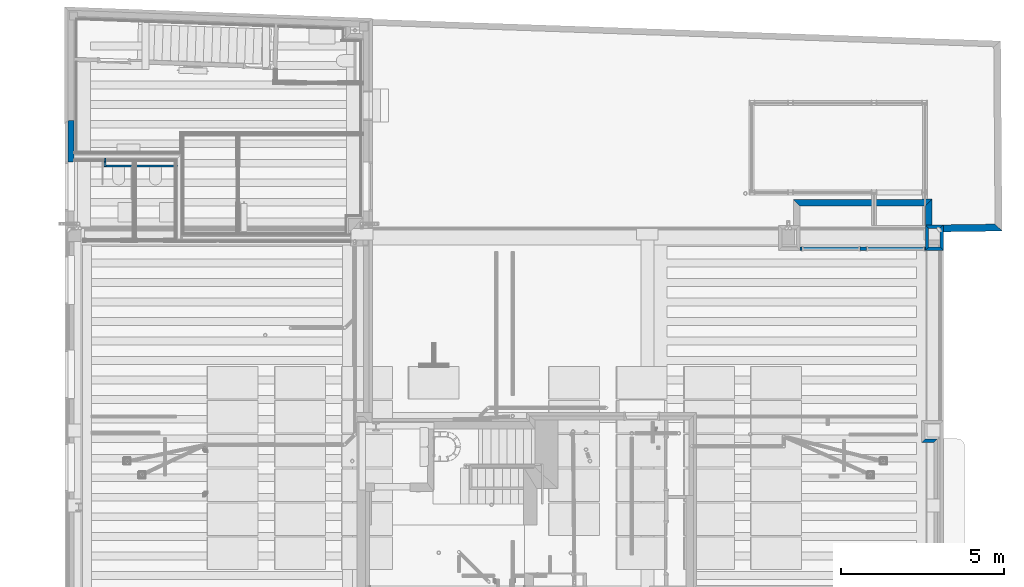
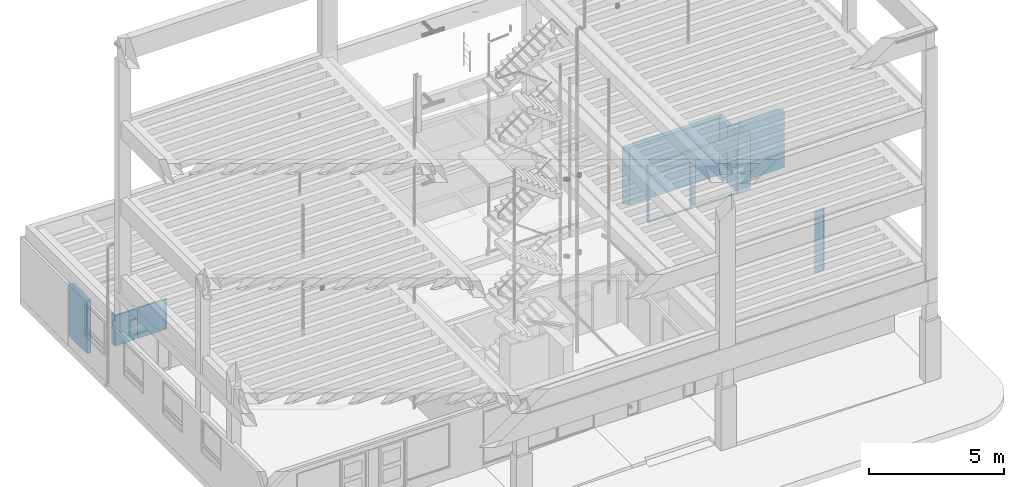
# One storey, part 8 of 108: 13 walls, 3 openings.
"""IFC2X3 building model written with IfcOpenShell, lengths in metres."""

import ifcopenshell
import ifcopenshell.guid

model = None  # the IFC model being written
_history = None  # IfcOwnerHistory: only IFC2X3 demands one
_inside = {}  # id of a spatial element -> (the spatial element, [elements in it])
_under = {}  # id of a project, library or spatial element -> (it, [spatial elements below it])
_declared = {}  # id of a project -> (the project, [libraries it declares])
_typed = {}  # id of a type object -> (the type object, [elements of that type])
_made_of = {}  # id of a material, layer set ... -> (it, [elements and type objects made of it])


def new_model(schema):
    """Start an empty IFC model of exactly this schema.

    Asked for "IFC4X3", IfcOpenShell would pick the latest addendum, in which some entities
    have other attributes; the version numbers below select the first issue.
    IFC2X3 requires an IfcOwnerHistory on every rooted entity: one is made here for all.
    """
    global model, _history
    if schema == "IFC4X3":
        model = ifcopenshell.file(schema_version=(4, 3, 0, 0))
    else:
        model = ifcopenshell.file(schema=schema)
    _inside.clear()
    _under.clear()
    _declared.clear()
    _typed.clear()
    _made_of.clear()
    _history = None
    if model.schema == "IFC2X3":
        org = make("IfcOrganization", Name="unknown")
        user = make(
            "IfcPersonAndOrganization",
            ThePerson=make("IfcPerson", FamilyName="unknown"),
            TheOrganization=org,
        )
        app = make(
            "IfcApplication",
            ApplicationDeveloper=org,
            Version="unknown",
            ApplicationFullName="unknown",
            ApplicationIdentifier="unknown",
        )
        _history = make(
            "IfcOwnerHistory",
            OwningUser=user,
            OwningApplication=app,
            ChangeAction="ADDED",
            CreationDate=0,
        )
    return model


def make(cls, **values):
    """One entity of the class cls with the attributes given. An attribute that is None is left unset."""
    return model.create_entity(
        cls, **{name: value for name, value in values.items() if value is not None}
    )


def entity(cls, *values):
    """Any entity or typed value of the class cls, its attributes in the order of the schema. None: left unset."""
    e = model.create_entity(cls)
    for i, value in enumerate(values):
        if value is not None:
            e[i] = value
    return e


def rooted(cls, **values):
    """An entity with a GlobalId (a new one), such as an element, a storey or a relation."""
    return make(cls, GlobalId=ifcopenshell.guid.new(), OwnerHistory=_history, **values)


def si_unit(unit_type, name, prefix=None):
    """IfcSIUnit, for example si_unit("LENGTHUNIT", "METRE", prefix="MILLI")."""
    return make("IfcSIUnit", UnitType=unit_type, Prefix=prefix, Name=name)


def converted_unit(unit_type, name, factor, base, dimensions=None, offset=None):
    """IfcConversionBasedUnit, such as the inch: factor (a typed value) times the base unit."""
    return make(
        "IfcConversionBasedUnit"
        if offset is None
        else "IfcConversionBasedUnitWithOffset",
        ConversionOffset=offset,
        Dimensions=None
        if dimensions is None
        else entity("IfcDimensionalExponents", *dimensions),
        UnitType=unit_type,
        Name=name,
        ConversionFactor=make(
            "IfcMeasureWithUnit", ValueComponent=factor, UnitComponent=base
        ),
    )


def derived_unit(unit_type, elements):
    """IfcDerivedUnit: a product of units, each with its exponent."""
    return make(
        "IfcDerivedUnit",
        Elements=[
            make("IfcDerivedUnitElement", Unit=unit, Exponent=power)
            for unit, power in elements
        ],
        UnitType=unit_type,
    )


def money_unit(currency):
    """IfcMonetaryUnit."""
    return make("IfcMonetaryUnit", Currency=currency)


def assignment(units):
    """IfcUnitAssignment: the units of a project."""
    return None if units is None else make("IfcUnitAssignment", Units=units)


def point(xyz):
    """IfcCartesianPoint."""
    return None if xyz is None else make("IfcCartesianPoint", Coordinates=xyz)


def direction(xyz):
    """IfcDirection."""
    return None if xyz is None else make("IfcDirection", DirectionRatios=xyz)


def frame(location, z_axis=None, x_axis=None):
    """IfcAxis2Placement3D, a coordinate frame: its origin and axes. An axis left out is left unset."""
    return make(
        "IfcAxis2Placement3D",
        Location=point(location),
        Axis=direction(z_axis),
        RefDirection=direction(x_axis),
    )


def frame_2d(location, x_axis=None):
    """IfcAxis2Placement2D, a coordinate frame in the plane: its origin and x axis."""
    return make(
        "IfcAxis2Placement2D", Location=point(location), RefDirection=direction(x_axis)
    )


def origin_with_axes():
    """The frame at (0, 0, 0) with the z axis (0, 0, 1) and the x axis (1, 0, 0) written out."""
    return frame((0.0, 0.0, 0.0), z_axis=(0.0, 0.0, 1.0), x_axis=(1.0, 0.0, 0.0))


def place(relative_to, where):
    """IfcLocalPlacement: puts the frame where relative to a parent placement (None: the world)."""
    return make(
        "IfcLocalPlacement", PlacementRelTo=relative_to, RelativePlacement=where
    )


def context(
    kind, dimensions, precision=None, world=None, true_north=None, identifier=None
):
    """IfcGeometricRepresentationContext, for example the 3D "Model" context."""
    return make(
        "IfcGeometricRepresentationContext",
        ContextIdentifier=identifier,
        ContextType=kind,
        CoordinateSpaceDimension=dimensions,
        Precision=precision,
        WorldCoordinateSystem=world,
        TrueNorth=true_north,
    )


def subcontext(parent, identifier, kind, view, scale=None):
    """IfcGeometricRepresentationSubContext, for example "Body" below "Model"."""
    return make(
        "IfcGeometricRepresentationSubContext",
        ContextIdentifier=identifier,
        ContextType=kind,
        ParentContext=parent,
        TargetScale=scale,
        TargetView=view,
    )


def project(units=None, contexts=None):
    """IfcProject with its units and contexts."""
    return rooted(
        "IfcProject",
        Name="project",
        RepresentationContexts=contexts,
        UnitsInContext=assignment(units),
    )


def spatial(cls, under=None, at=None, **own):
    """A site, building, storey or space (cls), placed at a placement, below another one or the project."""
    s = rooted(cls, ObjectPlacement=at, **own)
    if under is not None:
        _under.setdefault(under.id(), (under, []))[1].append(s)
    return s


def polyline(points):
    """IfcPolyline through the points."""
    return make("IfcPolyline", Points=[point(p) for p in points])


def profile(cls, at=None, kind="AREA", **sizes):
    """A parametric profile (cls). Its sizes go by their IFC names, for example OverallWidth=200.0."""
    return make(cls, ProfileType=kind, Position=at, **sizes)


def rectangle(**sizes):
    """IfcRectangleProfileDef."""
    return profile("IfcRectangleProfileDef", **sizes)


def outline(outer, holes=None, kind="AREA"):
    """IfcArbitraryClosedProfileDef: a profile drawn as a closed curve; with holes, ...WithVoids."""
    if holes is None:
        return make("IfcArbitraryClosedProfileDef", ProfileType=kind, OuterCurve=outer)
    return make(
        "IfcArbitraryProfileDefWithVoids",
        ProfileType=kind,
        OuterCurve=outer,
        InnerCurves=holes,
    )


def extrude(swept, where, along, depth):
    """IfcExtrudedAreaSolid: the profile swept, set in the frame where, extruded along a direction by depth."""
    return make(
        "IfcExtrudedAreaSolid",
        SweptArea=swept,
        Position=where,
        ExtrudedDirection=direction(along),
        Depth=depth,
    )


def shape(context_of_items, identifier, shape_type, items):
    """IfcShapeRepresentation: the items that make up one representation, for example the "Body"."""
    return make(
        "IfcShapeRepresentation",
        ContextOfItems=context_of_items,
        RepresentationIdentifier=identifier,
        RepresentationType=shape_type,
        Items=items,
    )


def material(Name=None, Category=None):
    """IfcMaterial."""
    return make("IfcMaterial", Name=Name, Category=Category)


def layer(
    of_material, thickness, ventilated=None, Name=None, Category=None, Priority=None
):
    """IfcMaterialLayer: one layer of a wall or slab, of a material (None: an air gap)."""
    return make(
        "IfcMaterialLayer",
        Material=of_material,
        LayerThickness=thickness,
        IsVentilated=ventilated,
        Name=Name,
        Category=Category,
        Priority=Priority,
    )


def layer_set(layers, Name=None):
    """IfcMaterialLayerSet."""
    return make("IfcMaterialLayerSet", MaterialLayers=layers, LayerSetName=Name)


def layer_usage(for_layer_set, set_direction, sense, offset, extent=None):
    """IfcMaterialLayerSetUsage: how a layer set lies in its element."""
    return make(
        "IfcMaterialLayerSetUsage",
        ForLayerSet=for_layer_set,
        LayerSetDirection=set_direction,
        DirectionSense=sense,
        OffsetFromReferenceLine=offset,
        ReferenceExtent=extent,
    )


def made_of(thing, what):
    """Note that an element or type object is made of a material, layer set ...; save() writes the relation."""
    if what is not None:
        _made_of.setdefault(what.id(), (what, []))[1].append(thing)
    return thing


def type_object(cls, material=None, **own):
    """A type object (cls), such as IfcWallType, which elements share."""
    return made_of(rooted(cls, **own), material)


def element(
    cls,
    number,
    at=None,
    inside=None,
    cuts=None,
    type_object=None,
    material=None,
    context=None,
    identifier="Body",
    shape_type=None,
    held_by="IfcProductDefinitionShape",
    body=None,
    shapes=None,
    **own,
):
    """One element of the class cls, such as IfcWall. Its Tag is "e" and its number.

    at: its placement. inside: the storey or other place that contains it. cuts: it is an
    opening in that element (IfcRelVoidsElement). A single representation is given by context,
    identifier, shape_type and body (its items); several are given by shapes. held_by: the class
    of the entity that holds the representations. save() writes the other relations.
    """
    e = rooted(cls, Tag="e%d" % number, ObjectPlacement=at, **own)
    if body is not None:
        shapes = [shape(context, identifier, shape_type, body)]
    if shapes is not None:
        e.Representation = make(held_by, Representations=shapes)
    if inside is not None:
        _inside.setdefault(inside.id(), (inside, []))[1].append(e)
    if cuts is not None:
        rooted(
            "IfcRelVoidsElement", RelatingBuildingElement=cuts, RelatedOpeningElement=e
        )
    if type_object is not None:
        _typed.setdefault(type_object.id(), (type_object, []))[1].append(e)
    return made_of(e, material)


def aggregate(whole, parts):
    """IfcRelAggregates: a whole, such as a stair, and the parts it consists of."""
    return rooted("IfcRelAggregates", RelatingObject=whole, RelatedObjects=parts)


def save(model, path):
    """Write the relations noted so far, then the file.

    IfcRelAggregates (storeys below a building ...), IfcRelContainedInSpatialStructure (elements
    in a storey), IfcRelDefinesByType, IfcRelAssociatesMaterial and IfcRelDeclares: one each for
    every whole, place, type object, material and project.
    """
    for whole, parts in _under.values():
        aggregate(whole, parts)
    for where, things in _inside.values():
        rooted(
            "IfcRelContainedInSpatialStructure",
            RelatedElements=things,
            RelatingStructure=where,
        )
    for kind, things in _typed.values():
        rooted("IfcRelDefinesByType", RelatedObjects=things, RelatingType=kind)
    for what, things in _made_of.values():
        rooted("IfcRelAssociatesMaterial", RelatedObjects=things, RelatingMaterial=what)
    for by, libraries in _declared.values():
        rooted("IfcRelDeclares", RelatingContext=by, RelatedDefinitions=libraries)
    model.write(path)


model = new_model("IFC2X3")

# Units and contexts
model_context = context("Model", 3, precision=1e-05, world=origin_with_axes(), true_north=direction((0.0, 1.0)))
body_context = subcontext(model_context, "Body", "Model", "MODEL_VIEW", scale=1.0)
ifc_project = project(units=[si_unit("LENGTHUNIT", "METRE"), si_unit("AREAUNIT", "SQUARE_METRE"), si_unit("VOLUMEUNIT", "CUBIC_METRE"), si_unit("ABSORBEDDOSEUNIT", "GRAY"), si_unit("AMOUNTOFSUBSTANCEUNIT", "MOLE"), si_unit("DOSEEQUIVALENTUNIT", "SIEVERT"), si_unit("ELECTRICCAPACITANCEUNIT", "FARAD"), si_unit("ELECTRICCHARGEUNIT", "COULOMB"), si_unit("ELECTRICCONDUCTANCEUNIT", "SIEMENS"), si_unit("ELECTRICCURRENTUNIT", "AMPERE"), si_unit("ELECTRICRESISTANCEUNIT", "OHM"), si_unit("ELECTRICVOLTAGEUNIT", "VOLT"), si_unit("ENERGYUNIT", "JOULE"), si_unit("FORCEUNIT", "NEWTON"), si_unit("FREQUENCYUNIT", "HERTZ"), si_unit("ILLUMINANCEUNIT", "LUX"), si_unit("INDUCTANCEUNIT", "HENRY"), si_unit("LUMINOUSFLUXUNIT", "LUMEN"), si_unit("LUMINOUSINTENSITYUNIT", "CANDELA"), si_unit("MAGNETICFLUXDENSITYUNIT", "TESLA"), si_unit("MAGNETICFLUXUNIT", "WEBER"), si_unit("MASSUNIT", "GRAM"), converted_unit("PLANEANGLEUNIT", "degree", entity("IfcReal", 0.0174532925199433), si_unit("PLANEANGLEUNIT", "RADIAN"), dimensions=[0, 0, 0, 0, 0, 0, 0]), si_unit("POWERUNIT", "WATT"), si_unit("PRESSUREUNIT", "PASCAL"), si_unit("RADIOACTIVITYUNIT", "BECQUEREL"), si_unit("SOLIDANGLEUNIT", "STERADIAN"), si_unit("THERMODYNAMICTEMPERATUREUNIT", "KELVIN"), si_unit("TIMEUNIT", "SECOND"), derived_unit("ACCELERATIONUNIT", [(si_unit("LENGTHUNIT", "METRE"), 1), (si_unit("TIMEUNIT", "SECOND"), -2)]), derived_unit("ANGULARVELOCITYUNIT", [(converted_unit("PLANEANGLEUNIT", "degree", entity("IfcReal", 0.0174532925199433), si_unit("PLANEANGLEUNIT", "RADIAN"), dimensions=[0, 0, 0, 0, 0, 0, 0]), 1), (si_unit("TIMEUNIT", "SECOND"), -1)]), derived_unit("CURVATUREUNIT", [(converted_unit("PLANEANGLEUNIT", "degree", entity("IfcReal", 0.0174532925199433), si_unit("PLANEANGLEUNIT", "RADIAN"), dimensions=[0, 0, 0, 0, 0, 0, 0]), 1), (si_unit("LENGTHUNIT", "METRE"), -1)]), derived_unit("DYNAMICVISCOSITYUNIT", [(si_unit("PRESSUREUNIT", "PASCAL"), 1), (si_unit("TIMEUNIT", "SECOND"), 1)]), derived_unit("HEATFLUXDENSITYUNIT", [(si_unit("POWERUNIT", "WATT"), 1), (si_unit("LENGTHUNIT", "METRE"), -2)]), derived_unit("HEATINGVALUEUNIT", [(si_unit("ENERGYUNIT", "JOULE"), 1), (si_unit("MASSUNIT", "GRAM"), -1)]), derived_unit("INTEGERCOUNTRATEUNIT", [(si_unit("TIMEUNIT", "SECOND"), -1)]), derived_unit("IONCONCENTRATIONUNIT", [(si_unit("MASSUNIT", "GRAM"), 1), (si_unit("VOLUMEUNIT", "CUBIC_METRE"), -1)]), derived_unit("ISOTHERMALMOISTURECAPACITYUNIT", [(si_unit("VOLUMEUNIT", "CUBIC_METRE"), 1), (si_unit("MASSUNIT", "GRAM"), -1)]), derived_unit("KINEMATICVISCOSITYUNIT", [(si_unit("AREAUNIT", "SQUARE_METRE"), 1), (si_unit("TIMEUNIT", "SECOND"), -1)]), derived_unit("LINEARFORCEUNIT", [(si_unit("FORCEUNIT", "NEWTON"), 1), (si_unit("LENGTHUNIT", "METRE"), -1)]), derived_unit("LINEARMOMENTUNIT", [(si_unit("FORCEUNIT", "NEWTON"), 1), (si_unit("LENGTHUNIT", "METRE"), -1)]), derived_unit("LINEARSTIFFNESSUNIT", [(si_unit("FORCEUNIT", "NEWTON"), 1), (si_unit("LENGTHUNIT", "METRE"), -1)]), derived_unit("LINEARVELOCITYUNIT", [(si_unit("LENGTHUNIT", "METRE"), 1), (si_unit("TIMEUNIT", "SECOND"), -1)]), derived_unit("LUMINOUSINTENSITYDISTRIBUTIONUNIT", [(si_unit("LUMINOUSINTENSITYUNIT", "CANDELA"), 1), (si_unit("LUMINOUSFLUXUNIT", "LUMEN"), -1)]), derived_unit("MASSDENSITYUNIT", [(si_unit("MASSUNIT", "GRAM"), 1), (si_unit("VOLUMEUNIT", "CUBIC_METRE"), -1)]), derived_unit("MASSFLOWRATEUNIT", [(si_unit("MASSUNIT", "GRAM"), 1), (si_unit("TIMEUNIT", "SECOND"), -1)]), derived_unit("MASSPERLENGTHUNIT", [(si_unit("MASSUNIT", "GRAM"), 1), (si_unit("LENGTHUNIT", "METRE"), -1)]), derived_unit("MODULUSOFELASTICITYUNIT", [(si_unit("FORCEUNIT", "NEWTON"), 1), (si_unit("AREAUNIT", "SQUARE_METRE"), -1)]), derived_unit("MODULUSOFLINEARSUBGRADEREACTIONUNIT", [(si_unit("FORCEUNIT", "NEWTON"), 1), (si_unit("LENGTHUNIT", "METRE"), -2)]), derived_unit("MODULUSOFROTATIONALSUBGRADEREACTIONUNIT", [(si_unit("FORCEUNIT", "NEWTON"), 1), (si_unit("LENGTHUNIT", "METRE"), 1)]), derived_unit("MODULUSOFSUBGRADEREACTIONUNIT", [(si_unit("FORCEUNIT", "NEWTON"), 1), (si_unit("VOLUMEUNIT", "CUBIC_METRE"), -1)]), derived_unit("MOISTUREDIFFUSIVITYUNIT", [(si_unit("VOLUMEUNIT", "CUBIC_METRE"), 1), (si_unit("TIMEUNIT", "SECOND"), -1)]), derived_unit("MOLECULARWEIGHTUNIT", [(si_unit("MASSUNIT", "GRAM"), 1), (si_unit("AMOUNTOFSUBSTANCEUNIT", "MOLE"), -1)]), derived_unit("PLANARFORCEUNIT", [(si_unit("FORCEUNIT", "NEWTON"), 1), (si_unit("LENGTHUNIT", "METRE"), -2)]), derived_unit("ROTATIONALFREQUENCYUNIT", [(si_unit("TIMEUNIT", "SECOND"), -1)]), derived_unit("ROTATIONALMASSUNIT", [(si_unit("MASSUNIT", "GRAM"), 1), (si_unit("LENGTHUNIT", "METRE"), 2)]), derived_unit("ROTATIONALSTIFFNESSUNIT", [(si_unit("FORCEUNIT", "NEWTON"), 1), (si_unit("LENGTHUNIT", "METRE"), 1), (converted_unit("PLANEANGLEUNIT", "degree", entity("IfcReal", 0.0174532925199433), si_unit("PLANEANGLEUNIT", "RADIAN"), dimensions=[0, 0, 0, 0, 0, 0, 0]), -1)]), derived_unit("SECTIONAREAINTEGRALUNIT", [(si_unit("LENGTHUNIT", "METRE"), 5)]), derived_unit("SECTIONMODULUSUNIT", [(si_unit("LENGTHUNIT", "METRE"), 3)]), derived_unit("SHEARMODULUSUNIT", [(si_unit("FORCEUNIT", "NEWTON"), 1), (si_unit("AREAUNIT", "SQUARE_METRE"), -1)]), derived_unit("SOUNDPOWERUNIT", [(si_unit("ENERGYUNIT", "JOULE"), 1), (si_unit("TIMEUNIT", "SECOND"), -1)]), derived_unit("SPECIFICHEATCAPACITYUNIT", [(si_unit("FORCEUNIT", "NEWTON"), 1), (si_unit("MASSUNIT", "GRAM"), -1), (si_unit("THERMODYNAMICTEMPERATUREUNIT", "KELVIN"), -1)]), derived_unit("TEMPERATUREGRADIENTUNIT", [(si_unit("THERMODYNAMICTEMPERATUREUNIT", "KELVIN"), 1), (si_unit("LENGTHUNIT", "METRE"), -1)]), derived_unit("THERMALADMITTANCEUNIT", [(si_unit("POWERUNIT", "WATT"), 1), (si_unit("AREAUNIT", "SQUARE_METRE"), -1), (si_unit("THERMODYNAMICTEMPERATUREUNIT", "KELVIN"), -1)]), derived_unit("THERMALCONDUCTANCEUNIT", [(si_unit("POWERUNIT", "WATT"), 1), (si_unit("LENGTHUNIT", "METRE"), -1), (si_unit("THERMODYNAMICTEMPERATUREUNIT", "KELVIN"), -1)]), derived_unit("THERMALEXPANSIONCOEFFICIENTUNIT", [(si_unit("THERMODYNAMICTEMPERATUREUNIT", "KELVIN"), -1)]), derived_unit("THERMALRESISTANCEUNIT", [(si_unit("AREAUNIT", "SQUARE_METRE"), 1), (si_unit("POWERUNIT", "WATT"), -1)]), derived_unit("THERMALTRANSMITTANCEUNIT", [(si_unit("POWERUNIT", "WATT"), 1), (si_unit("AREAUNIT", "SQUARE_METRE"), -1), (si_unit("THERMODYNAMICTEMPERATUREUNIT", "KELVIN"), -1)]), derived_unit("TORQUEUNIT", [(si_unit("FORCEUNIT", "NEWTON"), 1), (si_unit("LENGTHUNIT", "METRE"), 1)]), derived_unit("VAPORPERMEABILITYUNIT", [(si_unit("MASSUNIT", "GRAM"), 1), (si_unit("TIMEUNIT", "SECOND"), -1)]), derived_unit("VOLUMETRICFLOWRATEUNIT", [(si_unit("VOLUMEUNIT", "CUBIC_METRE"), 1), (si_unit("TIMEUNIT", "SECOND"), -1)]), derived_unit("WARPINGCONSTANTUNIT", [(si_unit("LENGTHUNIT", "METRE"), 6)]), derived_unit("WARPINGMOMENTUNIT", [(si_unit("FORCEUNIT", "NEWTON"), 1), (si_unit("LENGTHUNIT", "METRE"), 2)]), money_unit("GBP")], contexts=[model_context])

# Site, building, storey
site_placement = place(None, origin_with_axes())
site = spatial("IfcSite", under=ifc_project, at=site_placement, Name="Site", CompositionType="ELEMENT")
building_placement = place(site_placement, origin_with_axes())
building = spatial("IfcBuilding", under=site, at=building_placement, Name="Building01", CompositionType="ELEMENT")
storey_placement = place(building_placement, origin_with_axes())
storey = spatial("IfcBuildingStorey", under=building, at=storey_placement, Name="GF", CompositionType="ELEMENT", Elevation=0.0)

# Walls
ifc_material_1 = material(Name="A_BSUK_WallsExternal_Brick")
ifc_layer_1 = layer(ifc_material_1, 0.1, ventilated=False)
ifc_layer_set_1 = layer_set([ifc_layer_1])
ifc_layer_usage_1 = layer_usage(ifc_layer_set_1, "AXIS2", "POSITIVE", 0.0)
wall_type_1 = type_object("IfcWallType", Name="A-Walls-ExternalBrick", PredefinedType="NOTDEFINED")
wall_1_placement = place(storey_placement, frame((26.314179, 8.237758, -0.16), z_axis=(0.0, 0.0, 1.0), x_axis=(1.0, 0.0, 0.0)))
element("IfcWallStandardCase", 1, at=wall_1_placement, inside=storey, type_object=wall_type_1, material=ifc_layer_usage_1, Name="A-Walls-ExternalBrick", ObjectType="A-Walls-ExternalBrick", context=body_context, shape_type="SweptSolid", body=[
    extrude(outline(polyline([(0.481054, 0.1), (0.1, 0.1), (0.0, 0.0), (0.38105, 0.0), (0.481054, 0.1)])), origin_with_axes(), (0.0, 0.0, 1.0), 2.76),
])
wall_2_placement = place(storey_placement, frame((26.981733, 14.914749, -0.16), z_axis=(0.0, 0.0, 1.0), x_axis=(-0.99988976, -0.0148485, 0.0)))
element("IfcWallStandardCase", 2, at=wall_2_placement, inside=storey, type_object=wall_type_1, material=ifc_layer_usage_1, Name="A-Walls-ExternalBrick", ObjectType="A-Walls-ExternalBrick", context=body_context, shape_type="SweptSolid", body=[
    extrude(outline(polyline([(0.453506, 0.1), (0.101508, 0.1), (0.0, 0.0), (0.552027, 0.0), (0.453506, 0.1)])), origin_with_axes(), (0.0, 0.0, 1.0), 2.6),
])
wall_3_placement = place(storey_placement, frame((26.429767, 14.906552, -0.16), z_axis=(0.0, 0.0, 1.0), x_axis=(-5.782e-05, -1.0, 0.0)))
element("IfcWallStandardCase", 3, at=wall_3_placement, inside=storey, type_object=wall_type_1, material=ifc_layer_usage_1, Name="A-Walls-ExternalBrick", ObjectType="A-Walls-ExternalBrick", context=body_context, shape_type="SweptSolid", body=[
    extrude(outline(polyline([(0.672426, 0.1), (0.09852, 0.1), (0.0, 0.0), (0.772426, 0.0), (0.672426, 0.1)])), origin_with_axes(), (0.0, 0.0, 1.0), 2.6),
])
wall_4_placement = place(storey_placement, frame((26.429722, 14.134126, -0.16), z_axis=(0.0, 0.0, 1.0), x_axis=(1.0, -5.782e-05, 0.0)))
element("IfcWallStandardCase", 4, at=wall_4_placement, inside=storey, type_object=wall_type_1, material=ifc_layer_usage_1, Name="A-Walls-ExternalBrick", ObjectType="A-Walls-ExternalBrick", context=body_context, shape_type="SweptSolid", body=[
    extrude(outline(polyline([(0.451923, 0.1), (0.1, 0.1), (0.0, 0.0), (0.551917, 0.0), (0.451923, 0.1)])), origin_with_axes(), (0.0, 0.0, 1.0), 2.6),
])
wall_5_placement = place(storey_placement, frame((26.981639, 14.134094, -0.16), z_axis=(0.0, 0.0, 1.0), x_axis=(0.00011969, 0.99999999, 0.0)))
element("IfcWallStandardCase", 5, at=wall_5_placement, inside=storey, type_object=wall_type_1, material=ifc_layer_usage_1, Name="A-Walls-ExternalBrick", ObjectType="A-Walls-ExternalBrick", context=body_context, shape_type="SweptSolid", body=[
    extrude(outline(polyline([(0.679146, 0.1), (0.099994, 0.1), (0.0, 0.0), (0.780654, 0.0), (0.679146, 0.1)])), origin_with_axes(), (0.0, 0.0, 1.0), 2.6),
])

# Wall, openings
wall_6_placement = place(storey_placement, frame((22.577154, 14.134271, -0.16), z_axis=(0.0, 0.0, 1.0), x_axis=(1.0, -3.756e-05, 0.0)))
wall_6 = element("IfcWallStandardCase", 6, at=wall_6_placement, inside=storey, type_object=wall_type_1, material=ifc_layer_usage_1, Name="A-Walls-ExternalBrick", ObjectType="A-Walls-ExternalBrick", context=body_context, shape_type="SweptSolid", body=[
    extrude(outline(polyline([(3.85257, 0.1), (-0.000706, 0.1), (0.0, 0.0), (3.852568, 0.0), (3.85257, 0.1)])), origin_with_axes(), (0.0, 0.0, 1.0), 2.6),
])
opening_1_placement = place(wall_6_placement, frame((0.057998, 0.0, 0.023), z_axis=(0.0, 0.0, 1.0), x_axis=(1.0, 0.0, 0.0)))
element("IfcOpeningElement", 7, at=opening_1_placement, cuts=wall_6, Name="Opening", ObjectType="Opening", context=body_context, shape_type="SweptSolid", body=[
    extrude(rectangle(XDim=2.1, YDim=1.784, at=frame_2d((-0.892, 1.05), x_axis=(0.0, -1.0))), frame((0.0, 0.0, 0.0), z_axis=(0.0, 1.0, 0.0), x_axis=(-1.0, 0.0, 0.0)), (0.0, 0.0, 1.0), 0.1),
])
opening_2_placement = place(wall_6_placement, frame((2.043034, 0.0, 0.023), z_axis=(0.0, 0.0, 1.0), x_axis=(1.0, 0.0, 0.0)))
element("IfcOpeningElement", 8, at=opening_2_placement, cuts=wall_6, Name="Opening", ObjectType="Opening", context=body_context, shape_type="SweptSolid", body=[
    extrude(rectangle(XDim=2.1, YDim=1.784, at=frame_2d((-0.892, 1.05), x_axis=(0.0, -1.0))), frame((0.0, 0.0, 0.0), z_axis=(0.0, 1.0, 0.0), x_axis=(-1.0, 0.0, 0.0)), (0.0, 0.0, 1.0), 0.1),
])

# Walls
ifc_layer_2 = layer(ifc_material_1, 0.2, ventilated=False)
ifc_layer_set_2 = layer_set([ifc_layer_2])
ifc_layer_usage_2 = layer_usage(ifc_layer_set_2, "AXIS2", "POSITIVE", 0.0)
wall_7_placement = place(storey_placement, frame((22.571797, 15.495495, -0.16), z_axis=(0.0, 0.0, 1.0), x_axis=(0.99999721, 0.00236365, 0.0)))
element("IfcWallStandardCase", 9, at=wall_7_placement, inside=storey, type_object=wall_type_1, material=ifc_layer_usage_2, Name="A-Walls-ExternalBrick", ObjectType="A-Walls-ExternalBrick", context=body_context, shape_type="SweptSolid", body=[
    extrude(outline(polyline([(4.058424, 0.2), (-0.199528, 0.2), (0.0, 0.0), (3.857958, 0.0), (4.058424, 0.2)])), origin_with_axes(), (0.0, 0.0, 1.0), 2.6),
])
wall_8_placement = place(storey_placement, frame((26.429745, 15.504614, -0.16), z_axis=(0.0, 0.0, 1.0), x_axis=(3.652e-05, -1.0, 0.0)))
element("IfcWallStandardCase", 10, at=wall_8_placement, inside=storey, type_object=wall_type_1, material=ifc_layer_usage_2, Name="A-Walls-ExternalBrick", ObjectType="A-Walls-ExternalBrick", context=body_context, shape_type="SweptSolid", body=[
    extrude(outline(polyline([(-0.200466, 0.2), (0.0, 0.0), (0.598062, 0.0), (0.598062, 0.2), (-0.200466, 0.2)])), origin_with_axes(), (0.0, 0.0, 1.0), 2.6),
])
ifc_layer_3 = layer(ifc_material_1, 0.215, ventilated=False)
ifc_layer_set_3 = layer_set([ifc_layer_3])
ifc_layer_usage_3 = layer_usage(ifc_layer_set_3, "AXIS2", "POSITIVE", 0.0)
wall_9_placement = place(storey_placement, frame((26.981707, 14.702806, -0.16), z_axis=(0.0, 0.0, 1.0), x_axis=(0.99989566, 0.01444505, 0.0)))
element("IfcWallStandardCase", 11, at=wall_9_placement, inside=storey, type_object=wall_type_1, material=ifc_layer_usage_3, Name="A-Walls-ExternalBrick", ObjectType="A-Walls-ExternalBrick", context=body_context, shape_type="SweptSolid", body=[
    extrude(outline(polyline([(1.587336, 0.215), (0.003132, 0.215), (0.0, 0.0), (1.800808, 0.0), (1.587336, 0.215)])), origin_with_axes(), (0.0, 0.0, 1.0), 2.6),
])
ifc_material_2 = material(Name="A_BSUK_WallsExternal_Block")
ifc_layer_4 = layer(ifc_material_2, 0.18, ventilated=False)
ifc_layer_set_4 = layer_set([ifc_layer_4])
ifc_layer_usage_4 = layer_usage(ifc_layer_set_4, "AXIS2", "POSITIVE", 0.0)
wall_type_2 = type_object("IfcWallType", Name="A-Walls-ExternalBlock", PredefinedType="NOTDEFINED")
wall_10_placement = place(storey_placement, frame((0.280849, 16.847444, 0.148), z_axis=(0.0, 0.0, 1.0), x_axis=(3.756e-05, 1.0, 0.0)))
element("IfcWallStandardCase", 12, at=wall_10_placement, inside=storey, type_object=wall_type_2, material=ifc_layer_usage_4, Name="A-Walls-ExternalBlock", ObjectType="A-Walls-ExternalBlock", context=body_context, shape_type="SweptSolid", body=[
    extrude(rectangle(XDim=0.18, YDim=1.272778, at=frame_2d((0.636389, 0.09), x_axis=(0.0, -1.0))), origin_with_axes(), (0.0, 0.0, 1.0), 2.387),
])
ifc_material_3 = material(Name="A_BSUK_Walls_Timber")
ifc_layer_5 = layer(ifc_material_3, 0.015, ventilated=False)
ifc_material_4 = material(Name="A_BSUK_OpeningsClearance")
ifc_layer_6 = layer(ifc_material_4, 0.05, ventilated=False)
ifc_layer_set_5 = layer_set([ifc_layer_5, ifc_layer_6])
ifc_layer_usage_5 = layer_usage(ifc_layer_set_5, "AXIS2", "POSITIVE", 0.0)
wall_type_3 = type_object("IfcWallType", Name="SHE_A-Walls_Type05c_PreWallShell_65mm", PredefinedType="NOTDEFINED")
wall_11_placement = place(storey_placement, frame((2.180525, 16.75865, 0.198), z_axis=(0.0, 0.0, 1.0), x_axis=(1.0, 0.0, 0.0)))
element("IfcWallStandardCase", 13, at=wall_11_placement, inside=storey, type_object=wall_type_3, material=ifc_layer_usage_5, Name="5C", ObjectType="SHE_A-Walls_Type05c_PreWallShell_65mm", context=body_context, shape_type="SweptSolid", body=[
    extrude(outline(polyline([(1.185, -0.05), (1.275, -0.05), (1.275, 0.0), (0.0, 0.0), (0.0, -0.065), (1.185, -0.065), (1.185, -0.05)])), origin_with_axes(), (0.0, 0.0, 1.0), 1.375),
])
wall_12_placement = place(storey_placement, frame((1.265525, 16.75865, 0.198), z_axis=(0.0, 0.0, 1.0), x_axis=(1.0, 0.0, 0.0)))
element("IfcWallStandardCase", 14, at=wall_12_placement, inside=storey, type_object=wall_type_3, material=ifc_layer_usage_5, Name="5C", ObjectType="SHE_A-Walls_Type05c_PreWallShell_65mm", context=body_context, shape_type="SweptSolid", body=[
    extrude(outline(polyline([(0.835001, 0.0), (0.0, 0.0), (0.0, -0.05), (-0.05, -0.05), (-0.05, -0.065), (0.835001, -0.065), (0.835001, 0.0)])), origin_with_axes(), (0.0, 0.0, 1.0), 1.375),
])

# Wall, opening
wall_13_placement = place(storey_placement, frame((1.265525, 16.968647, 0.198), z_axis=(0.0, 0.0, 1.0), x_axis=(0.0, -1.0, 0.0)))
wall_13 = element("IfcWallStandardCase", 15, at=wall_13_placement, inside=storey, type_object=wall_type_3, material=ifc_layer_usage_5, Name="5C", ObjectType="SHE_A-Walls_Type05c_PreWallShell_65mm", context=body_context, shape_type="SweptSolid", body=[
    extrude(outline(polyline([(0.259998, -0.05), (0.259998, 0.0), (0.0, 0.0), (0.0, -0.05), (0.09, -0.05), (0.09, -0.065), (0.274998, -0.065), (0.274998, -0.05), (0.259998, -0.05)])), origin_with_axes(), (0.0, 0.0, 1.0), 1.375),
])
opening_3_placement = place(wall_13_placement, frame((0.125857, -0.065, 0.8), z_axis=(0.0, 0.0, 1.0), x_axis=(1.0, 0.0, 0.0)))
element("IfcOpeningElement", 16, at=opening_3_placement, cuts=wall_13, Name="Opening", ObjectType="Opening", context=body_context, shape_type="SweptSolid", body=[
    extrude(rectangle(XDim=1.5, YDim=0.3, at=frame_2d((-0.75, 0.15), x_axis=(-1.0, 0.0))), frame((0.0, 0.0, 0.0), z_axis=(0.0, 1.0, 0.0), x_axis=(-1.0, 0.0, 0.0)), (0.0, 0.0, 1.0), 0.065),
])

save(model, "model.ifc")
